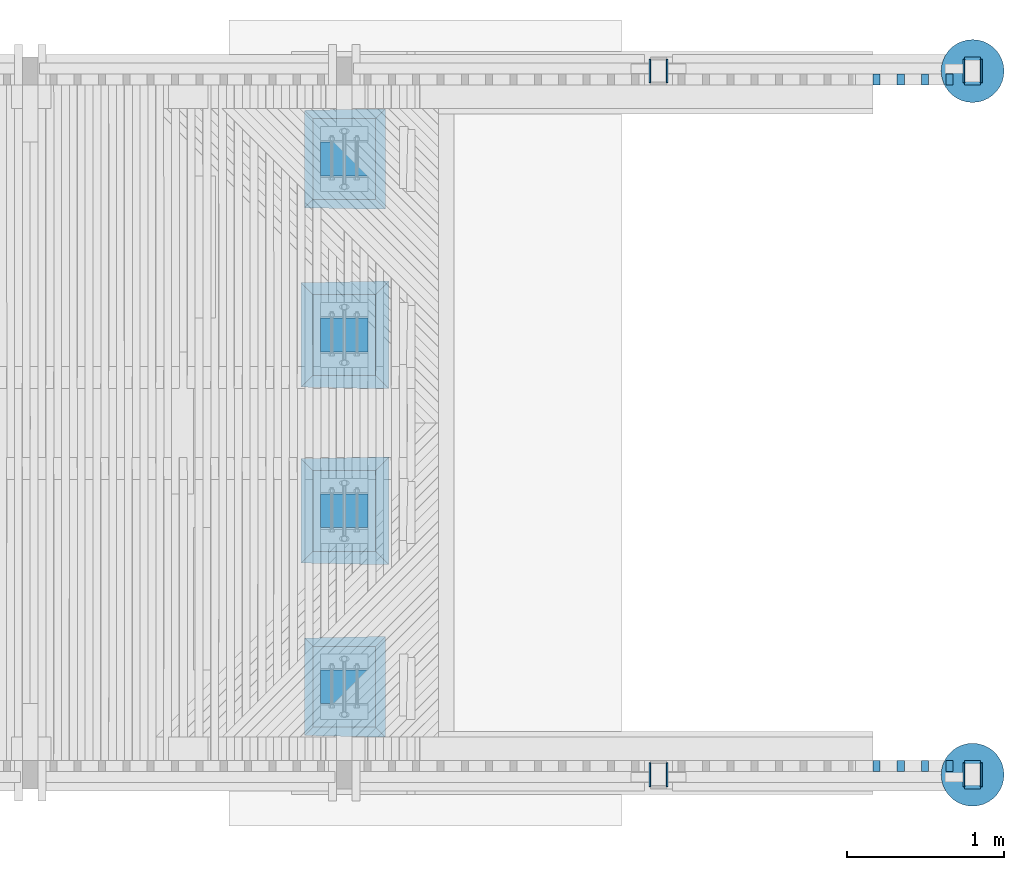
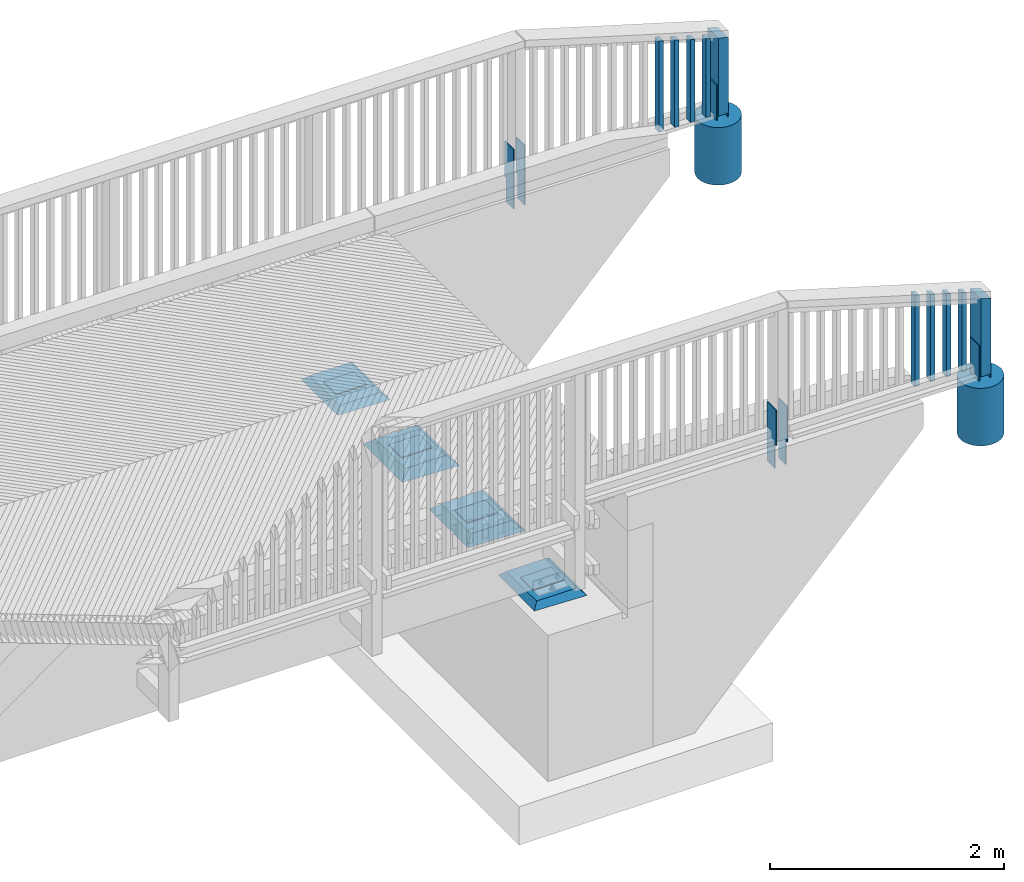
# One storey, part 13 of 52: 28 columns.
"""IFC2X3 building model written with IfcOpenShell, lengths in millimetres."""

from ifc_helpers import new_model, si_unit, frame, origin_with_axes, place, context, subcontext, project, spatial, faceted_brep, material, type_object, element, save


model = new_model("IFC2X3")

# Units and contexts
model_context = context("Model", 3, precision=1e-05, world=origin_with_axes())
body_context = subcontext(model_context, "Body", "Model", "MODEL_VIEW")
ifc_project = project(units=[si_unit("LENGTHUNIT", "METRE", prefix="MILLI"), si_unit("AREAUNIT", "SQUARE_METRE"), si_unit("VOLUMEUNIT", "CUBIC_METRE"), si_unit("MASSUNIT", "GRAM", prefix="KILO"), si_unit("TIMEUNIT", "SECOND"), si_unit("PLANEANGLEUNIT", "RADIAN"), si_unit("SOLIDANGLEUNIT", "STERADIAN"), si_unit("THERMODYNAMICTEMPERATUREUNIT", "DEGREE_CELSIUS"), si_unit("LUMINOUSINTENSITYUNIT", "LUMEN")], contexts=[model_context])

# Site, building, storey
site_placement = place(None, origin_with_axes())
site = spatial("IfcSite", under=ifc_project, at=site_placement, Name="Undefined", CompositionType="ELEMENT")
building_placement = place(site_placement, origin_with_axes())
building = spatial("IfcBuilding", under=site, at=building_placement, Name="Undefined", CompositionType="ELEMENT")
storey_placement = place(building_placement, origin_with_axes())
storey = spatial("IfcBuildingStorey", under=building, at=storey_placement, Name="Undefined", CompositionType="ELEMENT", Elevation=0.0)

# Columns
ifc_material_1 = material(Name="STEEL/AISI316")
column_type_1 = type_object("IfcColumnType", Name="PL150*10", PredefinedType="NOTDEFINED")
for number, where, z_axis, x_axis in (
    (1, (19944.9999998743, 4605.00000000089, 2794.56000000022), (0.0, -1.0, 0.0), (0.0, 0.0, 1.0)),
    (2, (17944.9999998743, 4605.00000000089, 2822.67000000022), (0.0, -1.0, 0.0), (0.0, 0.0, 1.0)),
):
    element("IfcColumn", number, at=place(storey_placement, frame(where, z_axis=z_axis, x_axis=x_axis)), inside=storey, type_object=column_type_1, material=ifc_material_1, Name="KAIDEPYLVÄS", ObjectType="PL150*10", context=body_context, shape_type="Brep", body=[
        faceted_brep([(0.0, -5.0, -50.0), (0.0, 5.0, -50.0), (250.0, 5.0, -50.0000000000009), (250.0, -5.0, -50.0000000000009), (250.0, -5.0, -75.0), (250.0, 5.0, -75.0), (0.0, 5.0, 75.0), (0.0, -5.0, 75.0), (620.0, -5.0, 75.0), (620.0, 5.0, 75.0), (620.0, -5.0, -75.0), (620.0, 5.0, -75.0)], [[[0, 1, 2, 3]], [[4, 3, 2, 5]], [[6, 7, 8, 9]], [[8, 10, 11, 9]], [[11, 10, 4, 5]], [[1, 6, 9, 11, 5, 2]], [[7, 6, 1, 0]], [[10, 8, 7, 0, 3, 4]]]),
    ])
for number, where, z_axis, x_axis in (
    (3, (19944.9999998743, 125.0, 2794.56000000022), (0.0, 1.0, 0.0), (0.0, 0.0, 1.0)),
    (4, (17944.9999998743, 125.0, 2822.67000000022), (0.0, 1.0, 0.0), (0.0, 0.0, 1.0)),
):
    element("IfcColumn", number, at=place(storey_placement, frame(where, z_axis=z_axis, x_axis=x_axis)), inside=storey, type_object=column_type_1, material=ifc_material_1, Name="KAIDEPYLVÄS", ObjectType="PL150*10", context=body_context, shape_type="Brep", body=[
        faceted_brep([(0.0, -5.0, -50.0), (0.0, 5.0, -50.0), (250.0, 5.0, -50.0000000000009), (250.0, -5.0, -50.0000000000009), (250.0, -5.0, -75.0), (250.0, 5.0, -75.0), (620.0, -5.0, 75.0), (620.0, -5.0, -75.0), (620.0, 5.0, -75.0), (620.0, 5.0, 75.0), (0.0, 5.0, 75.0), (0.0, -5.0, 75.0)], [[[0, 1, 2, 3]], [[4, 3, 2, 5]], [[6, 7, 8, 9]], [[10, 11, 6, 9]], [[11, 10, 1, 0]], [[7, 6, 11, 0, 3, 4]], [[8, 7, 4, 5]], [[1, 10, 9, 8, 5, 2]]]),
    ])
for number, where, z_axis, x_axis in (
    (5, (20054.9999998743, 4605.00000000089, 2794.56000000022), (0.0, -1.0, 0.0), (0.0, 0.0, 1.0)),
    (6, (18054.9999998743, 4605.00000000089, 2822.67000000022), (0.0, -1.0, 0.0), (0.0, 0.0, 1.0)),
):
    element("IfcColumn", number, at=place(storey_placement, frame(where, z_axis=z_axis, x_axis=x_axis)), inside=storey, type_object=column_type_1, material=ifc_material_1, Name="KAIDEPYLVÄS", ObjectType="PL150*10", context=body_context, shape_type="Brep", body=[
        faceted_brep([(0.0, -5.0, -50.0), (0.0, 5.0, -50.0), (250.0, 5.0, -50.0000000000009), (250.0, -5.0, -50.0000000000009), (250.0, -5.0, -75.0), (250.0, 5.0, -75.0), (0.0, 5.0, 75.0), (0.0, -5.0, 75.0), (620.0, -5.0, 75.0), (620.0, 5.0, 75.0), (620.0, -5.0, -75.0), (620.0, 5.0, -75.0)], [[[0, 1, 2, 3]], [[4, 3, 2, 5]], [[6, 7, 8, 9]], [[8, 10, 11, 9]], [[11, 10, 4, 5]], [[1, 6, 9, 11, 5, 2]], [[7, 6, 1, 0]], [[10, 8, 7, 0, 3, 4]]]),
    ])
for number, where, z_axis, x_axis in (
    (7, (20054.9999998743, 125.0, 2794.56000000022), (0.0, 1.0, 0.0), (0.0, 0.0, 1.0)),
    (8, (18054.9999998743, 125.0, 2822.67000000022), (0.0, 1.0, 0.0), (0.0, 0.0, 1.0)),
):
    element("IfcColumn", number, at=place(storey_placement, frame(where, z_axis=z_axis, x_axis=x_axis)), inside=storey, type_object=column_type_1, material=ifc_material_1, Name="KAIDEPYLVÄS", ObjectType="PL150*10", context=body_context, shape_type="Brep", body=[
        faceted_brep([(0.0, -5.0, -50.0), (0.0, 5.0, -50.0), (250.0, 5.0, -50.0000000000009), (250.0, -5.0, -50.0000000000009), (250.0, -5.0, -75.0), (250.0, 5.0, -75.0), (620.0, -5.0, 75.0), (620.0, -5.0, -75.0), (620.0, 5.0, -75.0), (620.0, 5.0, 75.0), (0.0, 5.0, 75.0), (0.0, -5.0, 75.0)], [[[0, 1, 2, 3]], [[4, 3, 2, 5]], [[6, 7, 8, 9]], [[10, 11, 6, 9]], [[11, 10, 1, 0]], [[7, 6, 11, 0, 3, 4]], [[8, 7, 4, 5]], [[1, 10, 9, 8, 5, 2]]]),
    ])
ifc_material_2 = material(Name="TIMBER/Timber_Undefined")
column_type_2 = type_object("IfcColumnType", Name="180*100", PredefinedType="NOTDEFINED")
column_1_placement = place(storey_placement, frame((19999.9999992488, 4604.98790809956, 3109.68000000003), z_axis=(0.0, -1.0, 0.0), x_axis=(0.0, 0.0, 1.0)))
element("IfcColumn", 9, at=column_1_placement, inside=storey, type_object=column_type_2, material=ifc_material_2, Name="KAIDEPYLVÄS", ObjectType="180*100", context=body_context, shape_type="Brep", body=[
    faceted_brep([(-15.1200000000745, 50.0, -90.0), (-15.1200000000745, 50.0, 90.0), (800.720209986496, 50.0, 90.0), (800.720209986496, 50.0, -90.0), (-15.1200000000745, -50.0, 90.0), (771.050236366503, -50.0, 90.0), (-15.1200000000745, -50.0, -90.0), (771.050236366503, -50.0, -90.0)], [[[0, 1, 2, 3]], [[1, 4, 5, 2]], [[4, 6, 7, 5]], [[6, 0, 3, 7]], [[5, 7, 3, 2]], [[6, 4, 1, 0]]]),
])
column_2_placement = place(storey_placement, frame((19999.9999992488, 125.01209190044, 3109.68000000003), z_axis=(0.0, 1.0, 0.0), x_axis=(0.0, 0.0, 1.0)))
element("IfcColumn", 10, at=column_2_placement, inside=storey, type_object=column_type_2, material=ifc_material_2, Name="KAIDEPYLVÄS", ObjectType="180*100", context=body_context, shape_type="Brep", body=[
    faceted_brep([(-15.1200000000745, 50.0, -90.0), (-15.1200000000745, 50.0, 90.0), (771.050236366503, 50.0, 90.0), (771.050236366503, 50.0, -90.0), (-15.1200000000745, -50.0, 90.0), (800.720209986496, -50.0, 90.0), (-15.1200000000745, -50.0, -90.0), (800.720209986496, -50.0, -90.0)], [[[0, 1, 2, 3]], [[1, 4, 5, 2]], [[4, 6, 7, 5]], [[6, 0, 3, 7]], [[5, 7, 3, 2]], [[6, 4, 1, 0]]]),
])
ifc_material_3 = material(Name="CONCRETE/Concrete_Undefined")
column_type_3 = type_object("IfcColumnType", Name="D400", PredefinedType="NOTDEFINED")
column_3_placement = place(storey_placement, frame((19999.9999995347, 4604.98582702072, 2444.55999999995), z_axis=(1.0, 0.0, 0.0), x_axis=(0.0, 0.0, 1.0)))
element("IfcColumn", 11, at=column_3_placement, inside=storey, type_object=column_type_3, material=ifc_material_3, Name="COLUMN", ObjectType="D400", context=body_context, shape_type="Brep", body=[
    faceted_brep([(0.0, -200.0, 0.0), (0.0, -196.961550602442, -34.7296355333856), (600.0, -196.961550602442, -34.7296355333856), (600.0, -200.0, 0.0), (0.0, -187.938524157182, -68.4040286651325), (600.0, -187.938524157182, -68.4040286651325), (0.0, -173.205080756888, -100.0), (600.0, -173.205080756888, -100.0), (0.0, -153.208888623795, -128.55752193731), (600.0, -153.208888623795, -128.55752193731), (0.0, -128.557521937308, -153.208888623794), (600.0, -128.557521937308, -153.208888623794), (0.0, -100.0, -173.205080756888), (600.0, -100.0, -173.205080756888), (0.0, -68.4040286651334, -187.93852415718), (600.0, -68.4040286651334, -187.93852415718), (0.0, -34.7296355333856, -196.961550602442), (600.0, -34.7296355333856, -196.961550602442), (0.0, 0.0, -200.0), (600.0, 0.0, -200.0), (0.0, 34.7296355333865, -196.961550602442), (600.0, 34.7296355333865, -196.961550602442), (0.0, 68.4040286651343, -187.93852415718), (600.0, 68.4040286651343, -187.93852415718), (0.0, 100.0, -173.205080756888), (600.0, 100.0, -173.205080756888), (0.0, 128.557521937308, -153.208888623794), (600.0, 128.557521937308, -153.208888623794), (0.0, 153.208888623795, -128.55752193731), (600.0, 153.208888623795, -128.55752193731), (0.0, 173.205080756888, -100.0), (600.0, 173.205080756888, -100.0), (0.0, 187.938524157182, -68.4040286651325), (600.0, 187.938524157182, -68.4040286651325), (0.0, 196.961550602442, -34.7296355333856), (600.0, 196.961550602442, -34.7296355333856), (0.0, 200.0, 0.0), (600.0, 200.0, 0.0), (0.0, 196.961550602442, 34.7296355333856), (600.0, 196.961550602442, 34.7296355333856), (0.0, 187.938524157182, 68.4040286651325), (600.0, 187.938524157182, 68.4040286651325), (0.0, 173.205080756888, 100.0), (600.0, 173.205080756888, 100.0), (0.0, 153.208888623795, 128.55752193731), (600.0, 153.208888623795, 128.55752193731), (0.0, 128.557521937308, 153.208888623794), (600.0, 128.557521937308, 153.208888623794), (0.0, 100.0, 173.205080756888), (600.0, 100.0, 173.205080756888), (0.0, 68.4040286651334, 187.93852415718), (600.0, 68.4040286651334, 187.93852415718), (0.0, 34.7296355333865, 196.961550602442), (600.0, 34.7296355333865, 196.961550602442), (0.0, 0.0, 200.0), (600.0, 0.0, 200.0), (0.0, -34.7296355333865, 196.961550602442), (600.0, -34.7296355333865, 196.961550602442), (0.0, -68.4040286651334, 187.93852415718), (600.0, -68.4040286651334, 187.93852415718), (0.0, -100.0, 173.205080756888), (600.0, -100.0, 173.205080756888), (0.0, -128.557521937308, 153.208888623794), (600.0, -128.557521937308, 153.208888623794), (0.0, -153.208888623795, 128.55752193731), (600.0, -153.208888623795, 128.55752193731), (0.0, -173.205080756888, 100.0), (600.0, -173.205080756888, 100.0), (0.0, -187.938524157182, 68.4040286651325), (600.0, -187.938524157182, 68.4040286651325), (0.0, -196.961550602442, 34.7296355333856), (600.0, -196.961550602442, 34.7296355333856)], [[[0, 1, 2, 3]], [[1, 4, 5, 2]], [[4, 6, 7, 5]], [[6, 8, 9, 7]], [[8, 10, 11, 9]], [[10, 12, 13, 11]], [[12, 14, 15, 13]], [[14, 16, 17, 15]], [[16, 18, 19, 17]], [[18, 20, 21, 19]], [[20, 22, 23, 21]], [[22, 24, 25, 23]], [[24, 26, 27, 25]], [[26, 28, 29, 27]], [[28, 30, 31, 29]], [[30, 32, 33, 31]], [[32, 34, 35, 33]], [[34, 36, 37, 35]], [[36, 38, 39, 37]], [[38, 40, 41, 39]], [[40, 42, 43, 41]], [[42, 44, 45, 43]], [[44, 46, 47, 45]], [[46, 48, 49, 47]], [[48, 50, 51, 49]], [[50, 52, 53, 51]], [[52, 54, 55, 53]], [[54, 56, 57, 55]], [[56, 58, 59, 57]], [[58, 60, 61, 59]], [[60, 62, 63, 61]], [[62, 64, 65, 63]], [[64, 66, 67, 65]], [[66, 68, 69, 67]], [[68, 70, 71, 69]], [[70, 0, 3, 71]], [[5, 7, 9, 11, 13, 15, 17, 19, 21, 23, 25, 27, 29, 31, 33, 35, 37, 39, 41, 43, 45, 47, 49, 51, 53, 55, 57, 59, 61, 63, 65, 67, 69, 71, 3, 2]], [[70, 68, 66, 64, 62, 60, 58, 56, 54, 52, 50, 48, 46, 44, 42, 40, 38, 36, 34, 32, 30, 28, 26, 24, 22, 20, 18, 16, 14, 12, 10, 8, 6, 4, 1, 0]]]),
])
column_4_placement = place(storey_placement, frame((19999.9999995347, 125.014172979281, 2444.55999999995), z_axis=(1.0, 0.0, 0.0), x_axis=(0.0, 0.0, 1.0)))
element("IfcColumn", 12, at=column_4_placement, inside=storey, type_object=column_type_3, material=ifc_material_3, Name="COLUMN", ObjectType="D400", context=body_context, shape_type="Brep", body=[
    faceted_brep([(0.0, -200.0, 0.0), (0.0, -196.961550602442, -34.7296355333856), (600.0, -196.961550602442, -34.7296355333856), (600.0, -200.0, 0.0), (0.0, -187.938524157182, -68.4040286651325), (600.0, -187.938524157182, -68.4040286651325), (0.0, -173.205080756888, -100.0), (600.0, -173.205080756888, -100.0), (0.0, -153.208888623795, -128.55752193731), (600.0, -153.208888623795, -128.55752193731), (0.0, -128.557521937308, -153.208888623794), (600.0, -128.557521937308, -153.208888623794), (0.0, -100.0, -173.205080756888), (600.0, -100.0, -173.205080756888), (0.0, -68.4040286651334, -187.93852415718), (600.0, -68.4040286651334, -187.93852415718), (0.0, -34.7296355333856, -196.961550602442), (600.0, -34.7296355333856, -196.961550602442), (0.0, 0.0, -200.0), (600.0, 0.0, -200.0), (0.0, 34.7296355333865, -196.961550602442), (600.0, 34.7296355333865, -196.961550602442), (0.0, 68.4040286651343, -187.93852415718), (600.0, 68.4040286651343, -187.93852415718), (0.0, 100.0, -173.205080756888), (600.0, 100.0, -173.205080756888), (0.0, 128.557521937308, -153.208888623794), (600.0, 128.557521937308, -153.208888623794), (0.0, 153.208888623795, -128.55752193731), (600.0, 153.208888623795, -128.55752193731), (0.0, 173.205080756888, -100.0), (600.0, 173.205080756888, -100.0), (0.0, 187.938524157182, -68.4040286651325), (600.0, 187.938524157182, -68.4040286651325), (0.0, 196.961550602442, -34.7296355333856), (600.0, 196.961550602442, -34.7296355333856), (0.0, 200.0, 0.0), (600.0, 200.0, 0.0), (0.0, 196.961550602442, 34.7296355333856), (600.0, 196.961550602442, 34.7296355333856), (0.0, 187.938524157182, 68.4040286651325), (600.0, 187.938524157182, 68.4040286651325), (0.0, 173.205080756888, 100.0), (600.0, 173.205080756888, 100.0), (0.0, 153.208888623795, 128.55752193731), (600.0, 153.208888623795, 128.55752193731), (0.0, 128.557521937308, 153.208888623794), (600.0, 128.557521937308, 153.208888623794), (0.0, 100.0, 173.205080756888), (600.0, 100.0, 173.205080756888), (0.0, 68.4040286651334, 187.93852415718), (600.0, 68.4040286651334, 187.93852415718), (0.0, 34.7296355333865, 196.961550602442), (600.0, 34.7296355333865, 196.961550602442), (0.0, 0.0, 200.0), (600.0, 0.0, 200.0), (0.0, -34.7296355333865, 196.961550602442), (600.0, -34.7296355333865, 196.961550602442), (0.0, -68.4040286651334, 187.93852415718), (600.0, -68.4040286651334, 187.93852415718), (0.0, -100.0, 173.205080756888), (600.0, -100.0, 173.205080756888), (0.0, -128.557521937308, 153.208888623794), (600.0, -128.557521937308, 153.208888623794), (0.0, -153.208888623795, 128.55752193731), (600.0, -153.208888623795, 128.55752193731), (0.0, -173.205080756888, 100.0), (600.0, -173.205080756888, 100.0), (0.0, -187.938524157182, 68.4040286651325), (600.0, -187.938524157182, 68.4040286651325), (0.0, -196.961550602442, 34.7296355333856), (600.0, -196.961550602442, 34.7296355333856)], [[[0, 1, 2, 3]], [[1, 4, 5, 2]], [[4, 6, 7, 5]], [[6, 8, 9, 7]], [[8, 10, 11, 9]], [[10, 12, 13, 11]], [[12, 14, 15, 13]], [[14, 16, 17, 15]], [[16, 18, 19, 17]], [[18, 20, 21, 19]], [[20, 22, 23, 21]], [[22, 24, 25, 23]], [[24, 26, 27, 25]], [[26, 28, 29, 27]], [[28, 30, 31, 29]], [[30, 32, 33, 31]], [[32, 34, 35, 33]], [[34, 36, 37, 35]], [[36, 38, 39, 37]], [[38, 40, 41, 39]], [[40, 42, 43, 41]], [[42, 44, 45, 43]], [[44, 46, 47, 45]], [[46, 48, 49, 47]], [[48, 50, 51, 49]], [[50, 52, 53, 51]], [[52, 54, 55, 53]], [[54, 56, 57, 55]], [[56, 58, 59, 57]], [[58, 60, 61, 59]], [[60, 62, 63, 61]], [[62, 64, 65, 63]], [[64, 66, 67, 65]], [[66, 68, 69, 67]], [[68, 70, 71, 69]], [[70, 0, 3, 71]], [[5, 7, 9, 11, 13, 15, 17, 19, 21, 23, 25, 27, 29, 31, 33, 35, 37, 39, 41, 43, 45, 47, 49, 51, 53, 55, 57, 59, 61, 63, 65, 67, 69, 71, 3, 2]], [[70, 68, 66, 64, 62, 60, 58, 56, 54, 52, 50, 48, 46, 44, 42, 40, 38, 36, 34, 32, 30, 28, 26, 24, 22, 20, 18, 16, 14, 12, 10, 8, 6, 4, 1, 0]]]),
])
column_type_4 = type_object("IfcColumnType", Name="70*45", PredefinedType="NOTDEFINED")
column_5_placement = place(storey_placement, frame((19387.4999992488, 4549.98790809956, 3079.15), z_axis=(0.0, 1.0, 0.0), x_axis=(0.0, 0.0, 1.0)))
element("IfcColumn", 13, at=column_5_placement, inside=storey, type_object=column_type_4, material=ifc_material_2, Name="BEAM", ObjectType="70*45", context=body_context, shape_type="Brep", body=[
    faceted_brep([(49.8204606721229, 22.5, -35.0), (49.8204606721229, 22.5, 35.0), (992.288494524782, 22.5, 35.0), (992.288494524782, 22.5, -35.0), (50.5074580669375, -22.5, 35.0), (1005.72400020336, -22.5, 35.0), (50.5074580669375, -22.5, -35.0), (1005.72400020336, -22.5, -35.0)], [[[0, 1, 2, 3]], [[1, 4, 5, 2]], [[4, 6, 7, 5]], [[6, 0, 3, 7]], [[5, 7, 3, 2]], [[6, 4, 1, 0]]]),
])
column_6_placement = place(storey_placement, frame((19542.4999992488, 4549.98790809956, 3079.15), z_axis=(0.0, 1.0, 0.0), x_axis=(0.0, 0.0, 1.0)))
element("IfcColumn", 14, at=column_6_placement, inside=storey, type_object=column_type_4, material=ifc_material_2, Name="BEAM", ObjectType="70*45", context=body_context, shape_type="Brep", body=[
    faceted_brep([(47.4541363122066, 22.5, -35.0), (47.4541363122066, 22.5, 35.0), (946.010641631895, 22.5, 35.0), (946.010641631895, 22.5, -35.0), (48.1411337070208, -22.5, 35.0), (959.446147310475, -22.5, 35.0), (48.1411337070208, -22.5, -35.0), (959.446147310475, -22.5, -35.0)], [[[0, 1, 2, 3]], [[1, 4, 5, 2]], [[4, 6, 7, 5]], [[6, 0, 3, 7]], [[5, 7, 3, 2]], [[6, 4, 1, 0]]]),
])
column_7_placement = place(storey_placement, frame((19697.4999992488, 4549.98790809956, 3079.15), z_axis=(0.0, 1.0, 0.0), x_axis=(0.0, 0.0, 1.0)))
element("IfcColumn", 15, at=column_7_placement, inside=storey, type_object=column_type_4, material=ifc_material_2, Name="BEAM", ObjectType="70*45", context=body_context, shape_type="Brep", body=[
    faceted_brep([(45.0878119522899, 22.5, -35.0), (45.0878119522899, 22.5, 35.0), (899.732788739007, 22.5, 35.0), (899.732788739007, 22.5, -35.0), (45.7748093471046, -22.5, 35.0), (913.168294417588, -22.5, 35.0), (45.7748093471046, -22.5, -35.0), (913.168294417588, -22.5, -35.0)], [[[0, 1, 2, 3]], [[1, 4, 5, 2]], [[4, 6, 7, 5]], [[6, 0, 3, 7]], [[5, 7, 3, 2]], [[6, 4, 1, 0]]]),
])
column_8_placement = place(storey_placement, frame((19852.4999992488, 4549.98790809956, 3079.15), z_axis=(0.0, 1.0, 0.0), x_axis=(0.0, 0.0, 1.0)))
element("IfcColumn", 16, at=column_8_placement, inside=storey, type_object=column_type_4, material=ifc_material_2, Name="BEAM", ObjectType="70*45", context=body_context, shape_type="Brep", body=[
    faceted_brep([(42.7214875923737, 22.5, -35.0), (42.7214875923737, 22.5, 35.0), (853.45493584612, 22.5, 35.0), (853.45493584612, 22.5, -35.0), (43.4084849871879, -22.5, 35.0), (866.8904415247, -22.5, 35.0), (43.4084849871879, -22.5, -35.0), (866.8904415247, -22.5, -35.0)], [[[0, 1, 2, 3]], [[1, 4, 5, 2]], [[4, 6, 7, 5]], [[6, 0, 3, 7]], [[5, 7, 3, 2]], [[6, 4, 1, 0]]]),
])
column_9_placement = place(storey_placement, frame((19387.4999992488, 180.01209190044, 3079.15), z_axis=(0.0, -1.0, 0.0), x_axis=(0.0, 0.0, 1.0)))
element("IfcColumn", 17, at=column_9_placement, inside=storey, type_object=column_type_4, material=ifc_material_2, Name="BEAM", ObjectType="70*45", context=body_context, shape_type="Brep", body=[
    faceted_brep([(50.5074580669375, 22.5, -35.0), (50.5074580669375, 22.5, 35.0), (1005.72400020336, 22.5, 35.0), (1005.72400020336, 22.5, -35.0), (49.8204606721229, -22.5, 35.0), (992.288494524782, -22.5, 35.0), (49.8204606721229, -22.5, -35.0), (992.288494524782, -22.5, -35.0)], [[[0, 1, 2, 3]], [[1, 4, 5, 2]], [[4, 6, 7, 5]], [[6, 0, 3, 7]], [[5, 7, 3, 2]], [[6, 4, 1, 0]]]),
])
column_10_placement = place(storey_placement, frame((19542.4999992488, 180.01209190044, 3079.15), z_axis=(0.0, -1.0, 0.0), x_axis=(0.0, 0.0, 1.0)))
element("IfcColumn", 18, at=column_10_placement, inside=storey, type_object=column_type_4, material=ifc_material_2, Name="BEAM", ObjectType="70*45", context=body_context, shape_type="Brep", body=[
    faceted_brep([(48.1411337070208, 22.5, -35.0), (48.1411337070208, 22.5, 35.0), (959.446147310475, 22.5, 35.0), (959.446147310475, 22.5, -35.0), (47.4541363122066, -22.5, 35.0), (946.010641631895, -22.5, 35.0), (47.4541363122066, -22.5, -35.0), (946.010641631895, -22.5, -35.0)], [[[0, 1, 2, 3]], [[1, 4, 5, 2]], [[4, 6, 7, 5]], [[6, 0, 3, 7]], [[5, 7, 3, 2]], [[6, 4, 1, 0]]]),
])
column_11_placement = place(storey_placement, frame((19697.4999992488, 180.01209190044, 3079.15), z_axis=(0.0, -1.0, 0.0), x_axis=(0.0, 0.0, 1.0)))
element("IfcColumn", 19, at=column_11_placement, inside=storey, type_object=column_type_4, material=ifc_material_2, Name="BEAM", ObjectType="70*45", context=body_context, shape_type="Brep", body=[
    faceted_brep([(45.7748093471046, 22.5, -35.0), (45.7748093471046, 22.5, 35.0), (913.168294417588, 22.5, 35.0), (913.168294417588, 22.5, -35.0), (45.0878119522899, -22.5, 35.0), (899.732788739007, -22.5, 35.0), (45.0878119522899, -22.5, -35.0), (899.732788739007, -22.5, -35.0)], [[[0, 1, 2, 3]], [[1, 4, 5, 2]], [[4, 6, 7, 5]], [[6, 0, 3, 7]], [[5, 7, 3, 2]], [[6, 4, 1, 0]]]),
])
column_12_placement = place(storey_placement, frame((19852.4999992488, 180.01209190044, 3079.15), z_axis=(0.0, -1.0, 0.0), x_axis=(0.0, 0.0, 1.0)))
element("IfcColumn", 20, at=column_12_placement, inside=storey, type_object=column_type_4, material=ifc_material_2, Name="BEAM", ObjectType="70*45", context=body_context, shape_type="Brep", body=[
    faceted_brep([(43.4084849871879, 22.5, -35.0), (43.4084849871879, 22.5, 35.0), (866.8904415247, 22.5, 35.0), (866.8904415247, 22.5, -35.0), (42.7214875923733, -22.5, 35.0), (853.45493584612, -22.5, 35.0), (42.7214875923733, -22.5, -35.0), (853.45493584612, -22.5, -35.0)], [[[0, 1, 2, 3]], [[1, 4, 5, 2]], [[4, 6, 7, 5]], [[6, 0, 3, 7]], [[5, 7, 3, 2]], [[6, 4, 1, 0]]]),
])
column_type_5 = type_object("IfcColumnType", Name="570*685", PredefinedType="NOTDEFINED")
for number, where, z_axis, x_axis, name in (
    (21, (16000.0, 2925.00000000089, 1922.0), (1.0, 0.0, 0.0), (0.0, 0.0, 1.0), "COLUMN"),
    (22, (16000.0, 1805.0, 1922.0), (1.0, 0.0, 0.0), (0.0, 0.0, 1.0), "COLUMN"),
):
    element("IfcColumn", number, at=place(storey_placement, frame(where, z_axis=z_axis, x_axis=x_axis)), inside=storey, type_object=column_type_5, material=ifc_material_3, Name=name, ObjectType="570*685", context=body_context, shape_type="Brep", body=[
        faceted_brep([(-9.52281374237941, -342.5, 285.0), (75.3299999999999, -257.647186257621, 200.147186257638), (75.3299999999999, 257.647186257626, 200.147186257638), (-9.52281374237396, 342.5, 285.0), (75.3299999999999, -257.647186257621, -200.147186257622), (0.770343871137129, -332.206842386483, -274.706842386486), (0.770343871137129, 332.206842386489, -274.706842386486), (75.3299999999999, 257.647186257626, -200.147186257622), (-9.52281374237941, -342.5, 229.657872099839), (-10.6522449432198, -342.5, 285.0), (-10.6522449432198, 342.5, 285.0), (-9.52281374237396, 342.5, 229.657872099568)], [[[0, 1, 2, 3]], [[4, 5, 6, 7]], [[5, 8, 9, 10, 11, 6]], [[9, 8, 0]], [[10, 9, 0, 3]], [[10, 3, 11]], [[7, 6, 11, 3, 2]], [[4, 7, 2, 1]], [[8, 5, 4, 1, 0]]]),
    ])
column_type_6 = type_object("IfcColumnType", Name="524*639", PredefinedType="NOTDEFINED")
for number, where, z_axis, x_axis, name in (
    (23, (16000.0, 4045.00000000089, 1900.0), (1.0, 0.0, 0.0), (0.0, 0.0, 1.0), "COLUMN"),
    (24, (16000.0, 685.0, 1900.0), (1.0, 0.0, 0.0), (0.0, 0.0, 1.0), "COLUMN"),
):
    element("IfcColumn", number, at=place(storey_placement, frame(where, z_axis=z_axis, x_axis=x_axis)), inside=storey, type_object=column_type_6, material=ifc_material_3, Name=name, ObjectType="524*639", context=body_context, shape_type="Brep", body=[
        faceted_brep([(13.1046032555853, -319.5, 262.0), (75.3299999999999, -257.274603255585, 199.774603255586), (75.3299999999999, 257.274603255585, 199.774603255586), (13.1046032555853, 319.5, 262.0), (75.3299999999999, -257.274603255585, -199.774603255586), (22.3220922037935, -310.282511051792, -252.782511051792), (22.3220922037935, 310.282511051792, -252.782511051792), (75.3299999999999, 257.274603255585, -199.774603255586), (13.1046032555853, -319.5, 198.87443973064), (11.816326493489, -319.5, 262.0), (11.816326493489, 319.5, 262.0), (13.1046032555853, 319.5, 198.874439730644)], [[[0, 1, 2, 3]], [[4, 5, 6, 7]], [[5, 8, 9, 10, 11, 6]], [[9, 8, 0]], [[10, 9, 0, 3]], [[10, 3, 11]], [[7, 6, 11, 3, 2]], [[4, 7, 2, 1]], [[8, 5, 4, 1, 0]]]),
    ])
ifc_material_4 = material(Name="MISCELLANEOUS/NEOPREENI")
column_type_7 = type_object("IfcColumnType", Name="PL300*215", PredefinedType="NOTDEFINED")
for number, where, z_axis, x_axis, name in (
    (25, (16000.0, 4045.0, 1975.33), (1.0, 0.0, 0.0), (0.0, 0.0, 1.0), "COLUMN"),
    (26, (16000.0, 2925.0, 1997.33), (1.0, 0.0, 0.0), (0.0, 0.0, 1.0), "COLUMN"),
    (27, (16000.0, 1805.0, 1997.33), (1.0, 0.0, 0.0), (0.0, 0.0, 1.0), "COLUMN"),
    (28, (16000.0, 685.0, 1975.33), (1.0, 0.0, 0.0), (0.0, 0.0, 1.0), "COLUMN"),
):
    element("IfcColumn", number, at=place(storey_placement, frame(where, z_axis=z_axis, x_axis=x_axis)), inside=storey, type_object=column_type_7, material=ifc_material_4, Name=name, ObjectType="PL300*215", context=body_context, shape_type="Brep", body=[
        faceted_brep([(0.0, 107.5, -150.0), (0.0, 107.5, 150.0), (10.0, 107.5, 150.0), (10.0, 107.5, -150.0), (0.0, -107.5, 150.0), (10.0, -107.5, 150.0), (0.0, -107.5, -150.0), (10.0, -107.5, -150.0)], [[[0, 1, 2, 3]], [[1, 4, 5, 2]], [[4, 6, 7, 5]], [[6, 0, 3, 7]], [[5, 7, 3, 2]], [[6, 4, 1, 0]]]),
    ])

save(model, "model.ifc")
